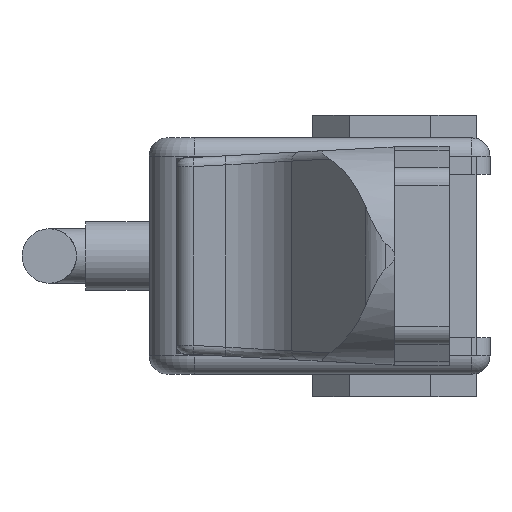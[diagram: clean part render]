
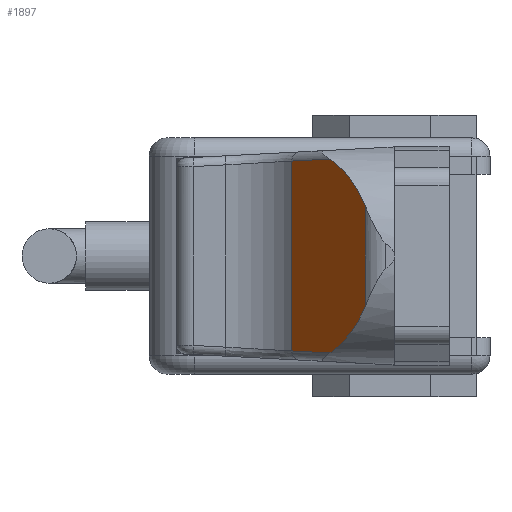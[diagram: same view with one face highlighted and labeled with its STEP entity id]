
A CAD part, left-side view. The second image highlights one B-rep face of the part: STEP entity #1897.
In plain terms, the highlighted planar face has unit normal (-0.602, 0.798, 0).
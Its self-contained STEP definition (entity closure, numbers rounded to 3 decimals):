
#302 = DIRECTION ( 'NONE',  ( 0.798, 0.602, 0.032 ) ) ;
#1215 = EDGE_CURVE ( 'NONE', #6873, #17177, #14641, .T. ) ;
#1806 = CARTESIAN_POINT ( 'NONE',  ( -124.201, 11.12, 10.667 ) ) ;
#1897 = ADVANCED_FACE ( 'NONE', ( #18343 ), #17591, .F. ) ;
#2751 = DIRECTION ( 'NONE',  ( 0.798, 0.602, 0. ) ) ;
#3571 = VERTEX_POINT ( 'NONE', #5357 ) ;
#4185 = LINE ( 'NONE', #8356, #19176 ) ;
#4276 = EDGE_LOOP ( 'NONE', ( #7629, #19236, #17840, #9592, #7492, #9112 ) ) ;
#4435 = EDGE_CURVE ( 'NONE', #9662, #3571, #4185, .T. ) ;
#4550 = DIRECTION ( 'NONE',  ( 0., 0., -1. ) ) ;
#5018 = DIRECTION ( 'NONE',  ( 0.602, -0.798, 0. ) ) ;
#5127 = EDGE_CURVE ( 'NONE', #6219, #9662, #11085, .T. ) ;
#5357 = CARTESIAN_POINT ( 'NONE',  ( -129.344, 7.242, -5.551 ) ) ;
#5639 = CARTESIAN_POINT ( 'NONE',  ( -128.189, 8.113, -7.764 ) ) ;
#5975 = CARTESIAN_POINT ( 'NONE',  ( -118.655, 15.302, 12. ) ) ;
#6198 = CARTESIAN_POINT ( 'NONE',  ( -126.42, 9.447, 9.524 ) ) ;
#6217 = CARTESIAN_POINT ( 'NONE',  ( -129.344, 7.242, 5.551 ) ) ;
#6219 = VERTEX_POINT ( 'NONE', #8471 ) ;
#6254 = AXIS2_PLACEMENT_3D ( 'NONE', #5975, #5018, #2751 ) ;
#6674 = VECTOR ( 'NONE', #302, 1000. ) ;
#6759 = CARTESIAN_POINT ( 'NONE',  ( -118.679, 15.284, 10.449 ) ) ;
#6873 = VERTEX_POINT ( 'NONE', #9082 ) ;
#6922 = CARTESIAN_POINT ( 'NONE',  ( -118.655, 15.302, 10.448 ) ) ;
#7102 = VECTOR ( 'NONE', #4550, 1000. ) ;
#7127 = CARTESIAN_POINT ( 'NONE',  ( -126.42, 9.447, -9.524 ) ) ;
#7342 = VECTOR ( 'NONE', #8233, 1000. ) ;
#7492 = ORIENTED_EDGE ( 'NONE', *, *, #5127, .F. ) ;
#7629 = ORIENTED_EDGE ( 'NONE', *, *, #9566, .T. ) ;
#8036 = EDGE_CURVE ( 'NONE', #3571, #6873, #17576, .T. ) ;
#8233 = DIRECTION ( 'NONE',  ( -0.798, -0.602, 0.032 ) ) ;
#8356 = CARTESIAN_POINT ( 'NONE',  ( -129.344, 7.242, 12. ) ) ;
#8471 = CARTESIAN_POINT ( 'NONE',  ( -124.201, 11.12, 10.667 ) ) ;
#9082 = CARTESIAN_POINT ( 'NONE',  ( -124.201, 11.12, -10.667 ) ) ;
#9112 = ORIENTED_EDGE ( 'NONE', *, *, #16611, .F. ) ;
#9566 = EDGE_CURVE ( 'NONE', #18369, #17177, #19088, .T. ) ;
#9592 = ORIENTED_EDGE ( 'NONE', *, *, #4435, .F. ) ;
#9662 = VERTEX_POINT ( 'NONE', #6217 ) ;
#9886 = DIRECTION ( 'NONE',  ( 0., 0., -1. ) ) ;
#11085 =( BOUNDED_CURVE ( )  B_SPLINE_CURVE ( 3, ( #1806, #6198, #15114, #12229 ),
 .UNSPECIFIED., .F., .F. ) 
 B_SPLINE_CURVE_WITH_KNOTS ( ( 4, 4 ),
 ( 5.188, 5.802 ),
 .UNSPECIFIED. ) 
 CURVE ( )  GEOMETRIC_REPRESENTATION_ITEM ( )  RATIONAL_B_SPLINE_CURVE ( ( 1., 0.969, 0.969, 1. ) ) 
 REPRESENTATION_ITEM ( '' )  );
#11597 = CARTESIAN_POINT ( 'NONE',  ( -129.344, 7.242, -5.551 ) ) ;
#11983 = CARTESIAN_POINT ( 'NONE',  ( -118.655, 15.302, 12. ) ) ;
#12146 = CARTESIAN_POINT ( 'NONE',  ( -122.021, 12.764, -10.581 ) ) ;
#12229 = CARTESIAN_POINT ( 'NONE',  ( -129.344, 7.242, 5.551 ) ) ;
#14469 = CARTESIAN_POINT ( 'NONE',  ( -118.655, 15.302, -10.448 ) ) ;
#14641 = LINE ( 'NONE', #12146, #6674 ) ;
#15114 = CARTESIAN_POINT ( 'NONE',  ( -128.189, 8.113, 7.764 ) ) ;
#16611 = EDGE_CURVE ( 'NONE', #18369, #6219, #19324, .T. ) ;
#17177 = VERTEX_POINT ( 'NONE', #14469 ) ;
#17576 =( BOUNDED_CURVE ( )  B_SPLINE_CURVE ( 3, ( #11597, #5639, #7127, #17636 ),
 .UNSPECIFIED., .F., .T. ) 
 B_SPLINE_CURVE_WITH_KNOTS ( ( 4, 4 ),
 ( 0.481, 1.095 ),
 .UNSPECIFIED. ) 
 CURVE ( )  GEOMETRIC_REPRESENTATION_ITEM ( )  RATIONAL_B_SPLINE_CURVE ( ( 1., 0.969, 0.969, 1. ) ) 
 REPRESENTATION_ITEM ( '' )  );
#17591 = PLANE ( 'NONE',  #6254 ) ;
#17636 = CARTESIAN_POINT ( 'NONE',  ( -124.201, 11.12, -10.667 ) ) ;
#17840 = ORIENTED_EDGE ( 'NONE', *, *, #8036, .F. ) ;
#18343 = FACE_OUTER_BOUND ( 'NONE', #4276, .T. ) ;
#18369 = VERTEX_POINT ( 'NONE', #6922 ) ;
#19088 = LINE ( 'NONE', #11983, #7102 ) ;
#19176 = VECTOR ( 'NONE', #9886, 1000. ) ;
#19236 = ORIENTED_EDGE ( 'NONE', *, *, #1215, .F. ) ;
#19324 = LINE ( 'NONE', #6759, #7342 ) ;
